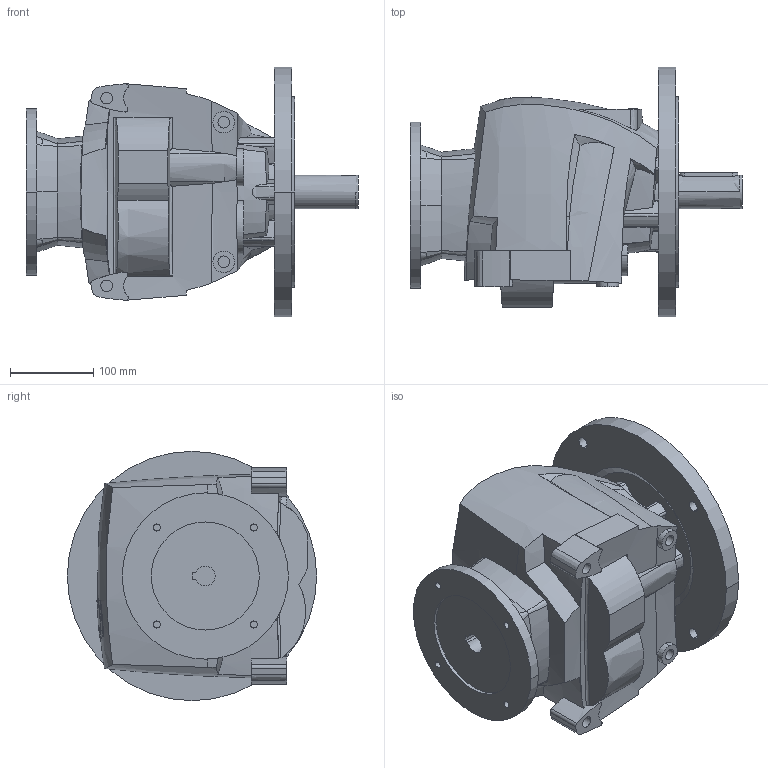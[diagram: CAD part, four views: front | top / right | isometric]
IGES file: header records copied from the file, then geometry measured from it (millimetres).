
Start section:  PTC IGES file: r40_300_pam90.igs
Global section: file name: r40_300_pam90.igs; native system: Pro/ENGINEER by Parametric Technology Corporation; preprocessor: 2008230; author: Luca; organization: Unknown; date: 20131127.143645; units: millimetre
Bounding box: 399.5 x 300 x 300 mm (x, y, z)
Volume: 12344502.7 mm3; surface area: 525308.6 mm2
Topology: 1 solids, 8 shells, 454 faces, 1208 edges, 808 vertices
Faces by surface type: bspline 219, revolution 198, extrusion 37
